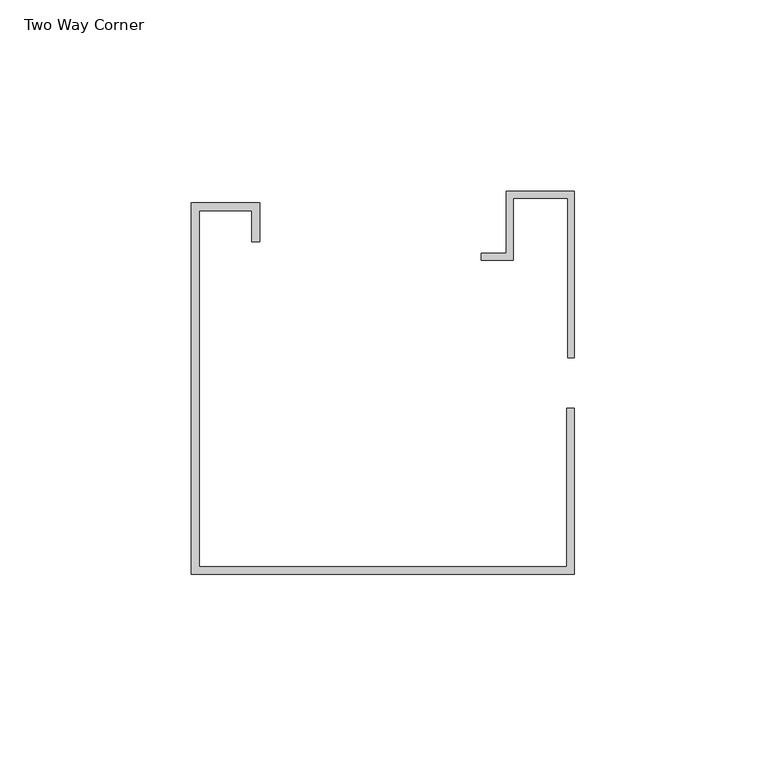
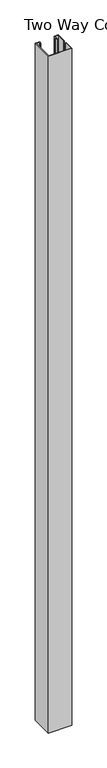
"""IFC4 building model written with IfcOpenShell, lengths in millimetres: proxy geometry, Connection-Corner-Teknion-OptosLP-Two_Way_FZCD2_G : Two Way Corner."""

from ifc_helpers import new_model, si_unit, origin, origin_with_axes, place, context, project, spatial, polyline, outline, extrude, source, transform, mapped, element, save


def two_way_corner_8ffb6a9a(model_context):
    return source(origin(), model_context, "Body", "SweptSolid", [
        extrude(outline(polyline([(49.0474012, -6.0185002), (49.0474012, -49.4525007), (-50.9523991, -49.4525007), (-50.9523991, 47.5474984), (-33.1215989, 47.5474984), (-33.1215989, 37.3874993), (-35.2043975, 37.3874993), (-35.2043975, 45.5155015), (-48.9203986, 45.5155015), (-48.9203986, -47.4205002), (47.0154006, -47.4205002), (47.0154006, -6.0185002), (49.0474012, -6.0185002)])), origin_with_axes(), (0.0, 0.0, 1.0), 3048.0),
        extrude(outline(polyline([(31.2166009, 34.4184988), (31.2166009, 50.5475007), (49.0475018, 50.5475007), (49.0475018, 7.1135002), (47.2695027, 7.1135002), (47.2695027, 48.7695016), (33.0455024, 48.7695016), (33.0455024, 32.6404997), (24.6635005, 32.6404997), (24.6635005, 34.4184988), (31.2166009, 34.4184988)])), origin_with_axes(), (0.0, 0.0, 1.0), 3048.0),
    ])


if __name__ == "__main__":
    model = new_model("IFC4")
    model_context = context("Model", 3, world=origin())
    ifc_project = project(units=[si_unit("LENGTHUNIT", "METRE", prefix="MILLI")], contexts=[model_context])
    site = spatial("IfcSite", under=ifc_project)
    building = spatial("IfcBuilding", under=site)
    placement = place(None, origin())
    two_way_corner_shape = two_way_corner_8ffb6a9a(model_context)
    element("IfcBuildingElementProxy", 1, Name="Connection-Corner-Teknion-OptosLP-Two_Way_FZCD2_G : Two Way Corner", ObjectType="Connection-Corner-Teknion-OptosLP-Two_Way_FZCD2_G : Two Way Corner", at=placement, inside=building, context=model_context, shape_type="MappedRepresentation", body=[
        mapped(two_way_corner_shape, transform((0.0, 0.0, 0.0), x_axis=(1.0, 0.0, 0.0), y_axis=(0.0, 1.0, 0.0), z_axis=(0.0, 0.0, 1.0))),
    ])
    save(model, "model.ifc")
